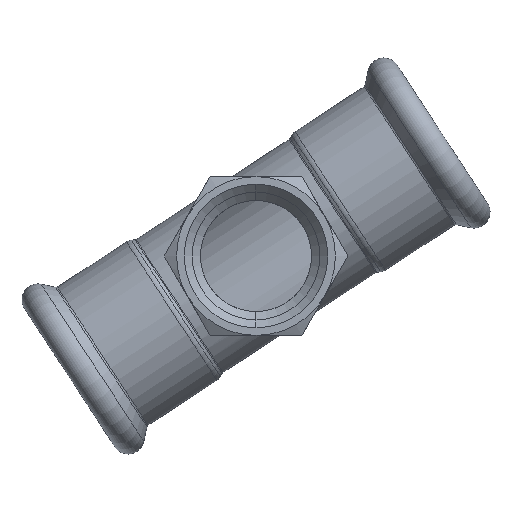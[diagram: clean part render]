
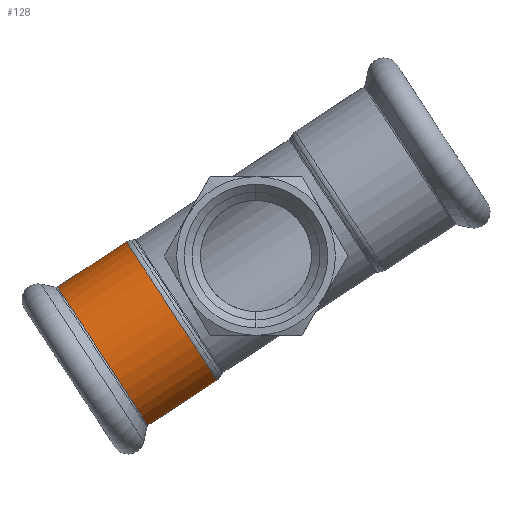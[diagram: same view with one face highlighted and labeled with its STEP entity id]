
A CAD part, front view. The second image highlights one B-rep face of the part: STEP entity #128.
In plain terms, the highlighted cylindrical face has radius 15.6 mm (diameter 31.2 mm), a partial arc.
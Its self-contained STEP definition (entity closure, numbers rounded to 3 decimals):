
#104 = EDGE_CURVE ( 'NONE', #1003, #1382, #4094, .T. ) ;
#128 = ADVANCED_FACE ( 'NONE', ( #642 ), #1637, .T. ) ;
#318 = ORIENTED_EDGE ( 'NONE', *, *, #3646, .T. ) ;
#426 = ORIENTED_EDGE ( 'NONE', *, *, #2824, .F. ) ;
#642 = FACE_OUTER_BOUND ( 'NONE', #2191, .T. ) ;
#674 = CARTESIAN_POINT ( 'NONE',  ( 34.55, 0., -15.6 ) ) ;
#762 = AXIS2_PLACEMENT_3D ( 'NONE', #2546, #3887, #3224 ) ;
#871 = EDGE_CURVE ( 'NONE', #3783, #1382, #3632, .T. ) ;
#1003 = VERTEX_POINT ( 'NONE', #2171 ) ;
#1074 = DIRECTION ( 'NONE',  ( -1., 0., 0. ) ) ;
#1125 = AXIS2_PLACEMENT_3D ( 'NONE', #1756, #1074, #1416 ) ;
#1382 = VERTEX_POINT ( 'NONE', #3305 ) ;
#1398 = CIRCLE ( 'NONE', #1125, 15.6 ) ;
#1416 = DIRECTION ( 'NONE',  ( 0., 0., 1. ) ) ;
#1637 = CYLINDRICAL_SURFACE ( 'NONE', #4078, 15.6 ) ;
#1756 = CARTESIAN_POINT ( 'NONE',  ( 34.55, 0., 0. ) ) ;
#1773 = CARTESIAN_POINT ( 'NONE',  ( 27.146, 0., -15.6 ) ) ;
#1812 = CARTESIAN_POINT ( 'NONE',  ( 34.55, 0., 15.6 ) ) ;
#2080 = VERTEX_POINT ( 'NONE', #1812 ) ;
#2106 = VECTOR ( 'NONE', #2779, 1000. ) ;
#2119 = ORIENTED_EDGE ( 'NONE', *, *, #104, .F. ) ;
#2171 = CARTESIAN_POINT ( 'NONE',  ( 19., 0., 15.6 ) ) ;
#2188 = DIRECTION ( 'NONE',  ( -1., 0., 0. ) ) ;
#2191 = EDGE_LOOP ( 'NONE', ( #318, #3349, #2119, #426 ) ) ;
#2422 = DIRECTION ( 'NONE',  ( 0., 0., 1. ) ) ;
#2546 = CARTESIAN_POINT ( 'NONE',  ( 19., 0., 0. ) ) ;
#2779 = DIRECTION ( 'NONE',  ( -1., 0., 0. ) ) ;
#2824 = EDGE_CURVE ( 'NONE', #2080, #1003, #3928, .T. ) ;
#3032 = VECTOR ( 'NONE', #2188, 1000. ) ;
#3224 = DIRECTION ( 'NONE',  ( 0., 0., 1. ) ) ;
#3305 = CARTESIAN_POINT ( 'NONE',  ( 19., 0., -15.6 ) ) ;
#3349 = ORIENTED_EDGE ( 'NONE', *, *, #871, .T. ) ;
#3486 = CARTESIAN_POINT ( 'NONE',  ( 27.146, 0., 15.6 ) ) ;
#3632 = LINE ( 'NONE', #1773, #2106 ) ;
#3646 = EDGE_CURVE ( 'NONE', #2080, #3783, #1398, .T. ) ;
#3727 = DIRECTION ( 'NONE',  ( -1., 0., 0. ) ) ;
#3783 = VERTEX_POINT ( 'NONE', #674 ) ;
#3875 = CARTESIAN_POINT ( 'NONE',  ( 27.146, 0., 0. ) ) ;
#3887 = DIRECTION ( 'NONE',  ( -1., 0., 0. ) ) ;
#3928 = LINE ( 'NONE', #3486, #3032 ) ;
#4078 = AXIS2_PLACEMENT_3D ( 'NONE', #3875, #3727, #2422 ) ;
#4094 = CIRCLE ( 'NONE', #762, 15.6 ) ;
